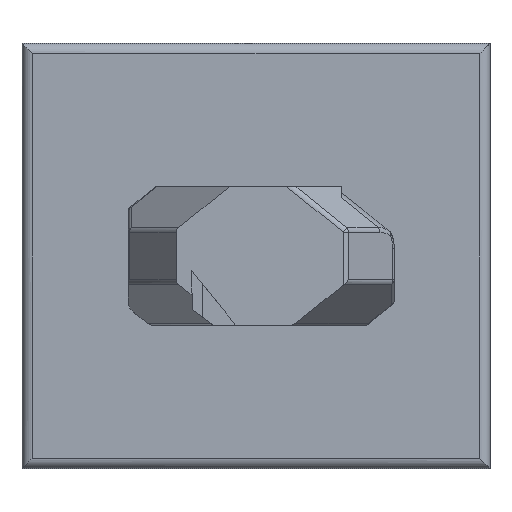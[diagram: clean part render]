
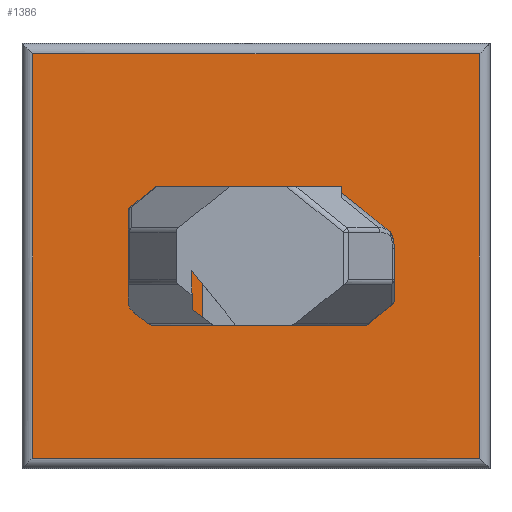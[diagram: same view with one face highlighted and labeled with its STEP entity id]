
A CAD part, front view. The second image highlights one B-rep face of the part: STEP entity #1386.
In plain terms, the highlighted planar face has unit normal (0, -1, 0).
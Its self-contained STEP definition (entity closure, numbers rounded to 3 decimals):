
#13=FACE_BOUND($,#252,.T.);
#14=FACE_BOUND($,#253,.T.);
#252=EDGE_LOOP($,(#1209,#1210,#1211,#1212));
#253=EDGE_LOOP($,(#1213,#1214,#1215,#1216));
#337=LINE($,#2097,#482);
#380=LINE($,#2328,#525);
#389=LINE($,#2350,#534);
#394=LINE($,#2374,#539);
#398=LINE($,#2382,#543);
#399=LINE($,#2384,#544);
#400=LINE($,#2385,#545);
#401=LINE($,#2386,#546);
#482=VECTOR($,#1680,6.5);
#525=VECTOR($,#1835,6.5);
#534=VECTOR($,#1858,21.);
#539=VECTOR($,#1879,21.);
#543=VECTOR($,#1889,6.5);
#544=VECTOR($,#1892,6.5);
#545=VECTOR($,#1893,19.);
#546=VECTOR($,#1894,19.);
#615=VERTEX_POINT($,#2094);
#616=VERTEX_POINT($,#2096);
#660=VERTEX_POINT($,#2325);
#661=VERTEX_POINT($,#2327);
#665=VERTEX_POINT($,#2344);
#667=VERTEX_POINT($,#2348);
#676=VERTEX_POINT($,#2370);
#678=VERTEX_POINT($,#2373);
#764=EDGE_CURVE($,#616,#615,#337,.T.);
#840=EDGE_CURVE($,#660,#661,#380,.T.);
#851=EDGE_CURVE($,#667,#665,#389,.T.);
#861=EDGE_CURVE($,#678,#676,#394,.T.);
#866=EDGE_CURVE($,#616,#660,#398,.T.);
#867=EDGE_CURVE($,#615,#661,#399,.T.);
#868=EDGE_CURVE($,#678,#667,#400,.T.);
#869=EDGE_CURVE($,#676,#665,#401,.T.);
#1209=ORIENTED_EDGE($,*,*,#866,.F.);
#1210=ORIENTED_EDGE($,*,*,#764,.T.);
#1211=ORIENTED_EDGE($,*,*,#867,.T.);
#1212=ORIENTED_EDGE($,*,*,#840,.F.);
#1213=ORIENTED_EDGE($,*,*,#851,.F.);
#1214=ORIENTED_EDGE($,*,*,#868,.F.);
#1215=ORIENTED_EDGE($,*,*,#861,.T.);
#1216=ORIENTED_EDGE($,*,*,#869,.T.);
#1312=PLANE($,#1515);
#1386=ADVANCED_FACE($,(#13,#14),#1312,.T.);
#1515=AXIS2_PLACEMENT_3D($,#2383,#1890,#1891);
#1680=DIRECTION($,(-1.,0.,0.));
#1835=DIRECTION($,(-1.,0.,0.));
#1858=DIRECTION($,(1.,0.,0.));
#1879=DIRECTION($,(1.,0.,0.));
#1889=DIRECTION($,(0.,0.,1.));
#1890=DIRECTION('center_axis',(0.,-1.,0.));
#1891=DIRECTION('ref_axis',(0.,0.,-1.));
#1892=DIRECTION($,(0.,0.,1.));
#1893=DIRECTION($,(0.,0.,1.));
#1894=DIRECTION($,(0.,0.,1.));
#2094=CARTESIAN_POINT('',(8.5,7.8,6.75));
#2096=CARTESIAN_POINT('',(15.,7.8,6.75));
#2097=CARTESIAN_POINT($,(22.,7.8,6.75));
#2325=CARTESIAN_POINT('',(15.,7.8,13.25));
#2327=CARTESIAN_POINT('',(8.5,7.8,13.25));
#2328=CARTESIAN_POINT($,(22.,7.8,13.25));
#2344=CARTESIAN_POINT('',(21.5,7.8,19.5));
#2348=CARTESIAN_POINT('',(0.5,7.8,19.5));
#2350=CARTESIAN_POINT($,(22.,7.8,19.5));
#2370=CARTESIAN_POINT('',(21.5,7.8,0.5));
#2373=CARTESIAN_POINT('',(0.5,7.8,0.5));
#2374=CARTESIAN_POINT($,(22.,7.8,0.5));
#2382=CARTESIAN_POINT($,(15.,7.8,0.));
#2383=CARTESIAN_POINT('Origin',(8.5,7.8,0.));
#2384=CARTESIAN_POINT($,(8.5,7.8,0.));
#2385=CARTESIAN_POINT($,(0.5,7.8,0.));
#2386=CARTESIAN_POINT($,(21.5,7.8,0.));
